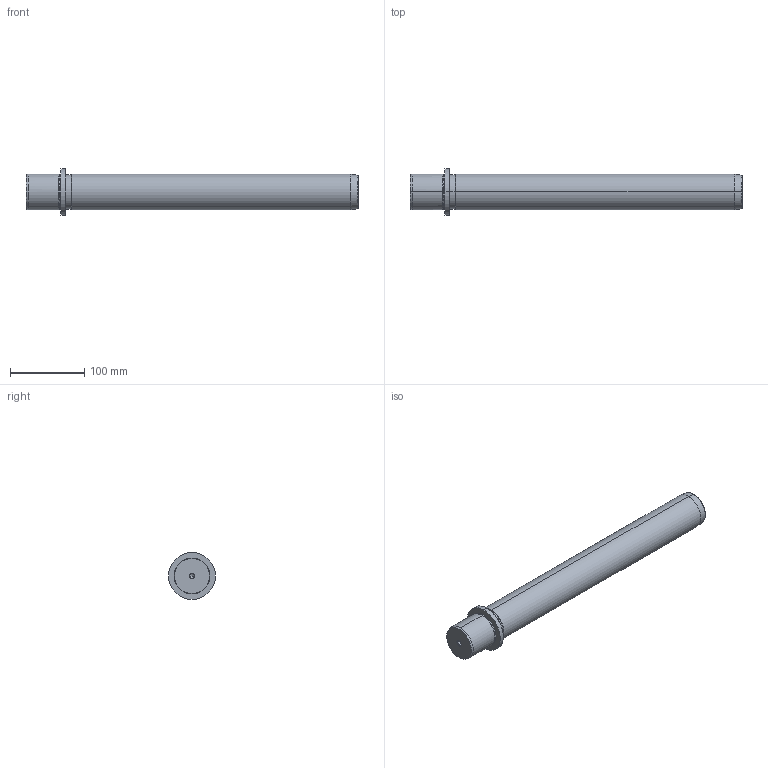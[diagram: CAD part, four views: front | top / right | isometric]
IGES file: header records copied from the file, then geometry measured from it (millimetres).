
Start section: START RECORD GO HERE.
Global section: file name: 718-48x400.igs; native system: DASSAULT SYSTEMES CATIA V5 R20 - www.3ds.com; preprocessor: CATIA Version 5 Release 20 ; author: Utente; organization: NB04-ASUS; date: 20210102.132837; units: millimetre
Bounding box: 447 x 63 x 63 mm (x, y, z)
Surface area: 74731.8 mm2 (no closed solid volume)
Topology: 0 solids, 0 shells, 36 faces, 196 edges, 192 vertices
Faces by surface type: revolution 32, plane 4
